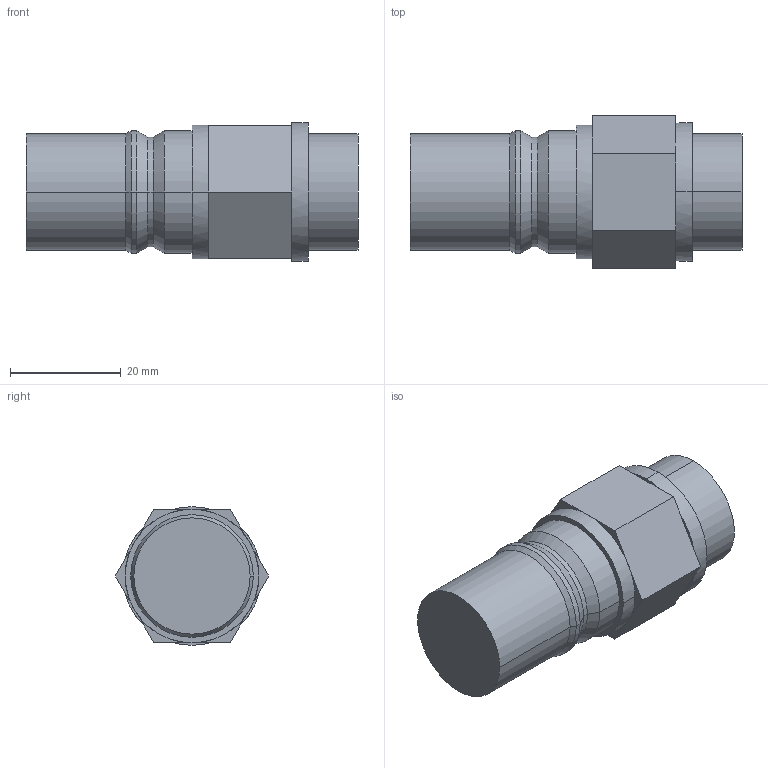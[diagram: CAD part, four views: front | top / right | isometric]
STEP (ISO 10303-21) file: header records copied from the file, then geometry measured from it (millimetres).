
FILE_DESCRIPTION (( 'STEP AP214' ), '1' );
FILE_NAME ('BR601.12 RRB 21.STEP', '2020-12-02T14:11:15', ( '' ), ( '' ), 'SwSTEP 2.0', 'SolidWorks 2018', '' );
FILE_SCHEMA (( 'AUTOMOTIVE_DESIGN' ));
Length unit declared in the file: millimetre
Products named in the file (1): BR601.12 RRB 21
Bounding box: 60 x 27.71 x 25 mm (x, y, z)
Volume: 24056.4 mm3; surface area: 5342.9 mm2
Topology: 1 solids, 1 shells, 54 faces, 114 edges, 64 vertices
Faces by surface type: plane 34, cylinder 14, cone 6
Entity records: 1456 total; most frequent: DIRECTION 276, CARTESIAN_POINT 233, ORIENTED_EDGE 228, EDGE_CURVE 114, AXIS2_PLACEMENT_3D 107, VERTEX_POINT 64, LINE 62, VECTOR 62
